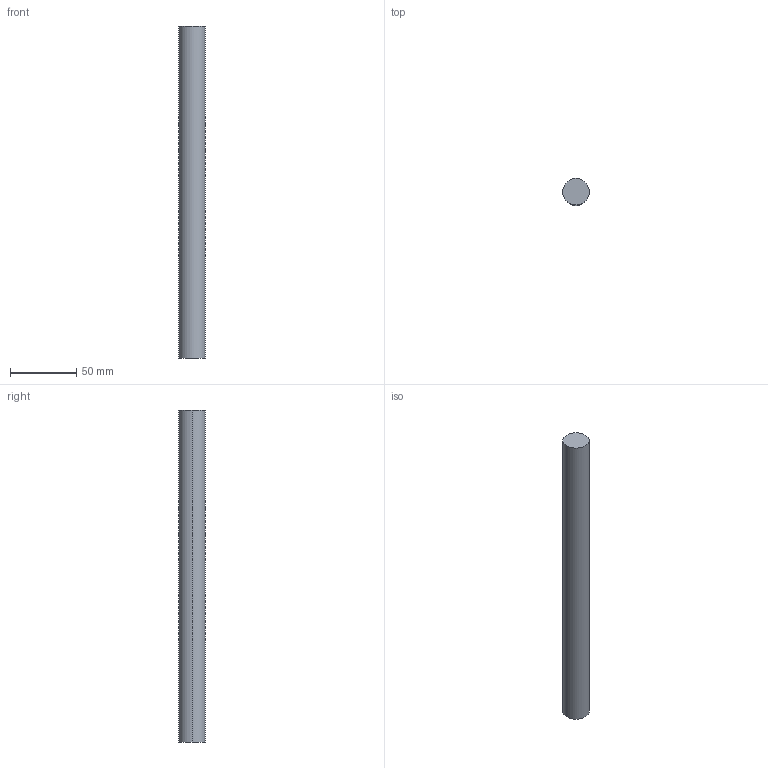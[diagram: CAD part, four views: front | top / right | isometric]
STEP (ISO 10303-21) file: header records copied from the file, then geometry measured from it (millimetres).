
FILE_DESCRIPTION (( 'STEP AP203' ), '1' );
FILE_NAME ('first vertical arm_Default_sldprt.STEP', '2025-01-16T15:44:54', ( '' ), ( '' ), 'SwSTEP 2.0', 'SolidWorks 2020', '' );
FILE_SCHEMA (( 'CONFIG_CONTROL_DESIGN' ));
Length unit declared in the file: millimetre
Products named in the file (1): first vertical arm_Default_sldprt
Bounding box: 20 x 20 x 250 mm (x, y, z)
Volume: 78539.8 mm3; surface area: 16336.3 mm2
Topology: 1 solids, 1 shells, 4 faces, 6 edges, 4 vertices
Faces by surface type: cylinder 2, plane 2
Entity records: 171 total; most frequent: DIRECTION 20, CARTESIAN_POINT 15, ORIENTED_EDGE 12, AXIS2_PLACEMENT_3D 9, PERSON_AND_ORGANIZATION 8, EDGE_CURVE 6, DATE_AND_TIME 5, COORDINATED_UNIVERSAL_TIME_OFFSET 5
